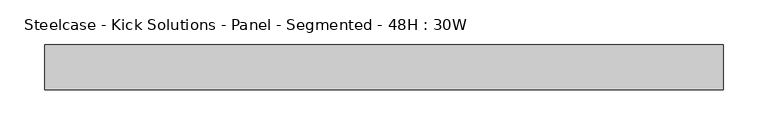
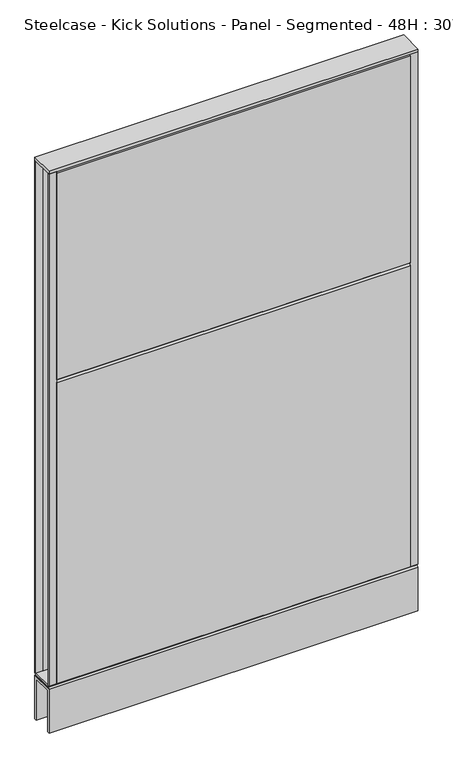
"""IFC4 building model written with IfcOpenShell, lengths in millimetres: furniture geometry, Steelcase - Kick Solutions - Panel - Segmented - 48H : 30W."""

from ifc_helpers import new_model, si_unit, frame, origin, place, context, project, spatial, polyline, outline, extrude, source, transform, mapped, element, save


def steelcase_kick_solutions_panel_segmented_48h_30w_b9597c33(model_context):
    return source(origin(), model_context, "Body", "SweptSolid", [
        extrude(outline(polyline([(1.5e-06, 101.600003), (-3.175, 101.600003), (-3.175, 1219.2), (1.5e-06, 1216.1188448), (1.5e-06, 101.600003)])), frame((15.8749996, 0.0, 0.0), z_axis=(1.0, 0.0, 0.0), x_axis=(0.0, 1.0, 0.0)), (0.0, 0.0, 1.0), 730.2500008),
        extrude(outline(polyline([(-50.8000015, 765.0811552), (-50.8000015, 1216.1188448), (-47.625, 1219.2), (-47.625, 762.0), (-50.8000015, 765.0811552)])), frame((15.8749996, 0.0, 0.0), z_axis=(1.0, 0.0, 0.0), x_axis=(0.0, 1.0, 0.0)), (0.0, 0.0, 1.0), 730.2500008),
        extrude(outline(polyline([(-50.8000015, 101.600003), (-50.8000015, 758.9188448), (-47.625, 762.0), (-47.625, 101.600003), (-50.8000015, 101.600003)])), frame((15.8749996, 0.0, 0.0), z_axis=(1.0, 0.0, 0.0), x_axis=(0.0, 1.0, 0.0)), (0.0, 0.0, 1.0), 730.2500008),
        extrude(outline(polyline([(762.0, -3.1750015), (746.1250004, -3.1750015), (746.1250004, 0.0), (762.0, 0.0), (762.0, -3.1750015)])), frame((0.0, 0.0, 101.7169049), z_axis=(0.0, 0.0, 1.0), x_axis=(1.0, 0.0, 0.0)), (0.0, 0.0, 1.0), 1117.599997),
        extrude(outline(polyline([(15.8749996, -50.8000015), (0.0, -50.8000015), (0.0, -47.625), (15.8749996, -47.625), (15.8749996, -50.8000015)])), frame((0.0, 0.0, 101.7169049), z_axis=(0.0, 0.0, 1.0), x_axis=(1.0, 0.0, 0.0)), (0.0, 0.0, 1.0), 1117.599997),
        extrude(outline(polyline([(-50.7995075, 101.7169049), (-0.000494, 101.7169049), (-3.0583512, 98.5421458), (-47.7416503, 98.5421458), (-50.7995075, 101.7169049)])), frame((0.0, 0.0, 0.0), z_axis=(1.0, 0.0, 0.0), x_axis=(0.0, 1.0, 0.0)), (0.0, 0.0, 1.0), 762.0),
        extrude(outline(polyline([(762.0, 0.0), (762.0, -50.8000015), (0.0, -50.8000015), (0.0, 0.0), (762.0, 0.0)])), frame((0.0, 0.0, 1219.3169018), z_axis=(0.0, 0.0, 1.0), x_axis=(1.0, 0.0, 0.0)), (0.0, 0.0, 1.0), 6.35),
        extrude(outline(polyline([(15.8749996, -3.1750015), (0.0, -3.1750015), (0.0, 0.0), (15.8749996, 0.0), (15.8749996, -3.1750015)])), frame((0.0, 0.0, 101.7169049), z_axis=(0.0, 0.0, 1.0), x_axis=(1.0, 0.0, 0.0)), (0.0, 0.0, 1.0), 1117.599997),
        extrude(outline(polyline([(762.0, -50.8000015), (746.1250004, -50.8000015), (746.1250004, -47.625), (762.0, -47.625), (762.0, -50.8000015)])), frame((0.0, 0.0, 101.7169049), z_axis=(0.0, 0.0, 1.0), x_axis=(1.0, 0.0, 0.0)), (0.0, 0.0, 1.0), 1117.599997),
        extrude(outline(polyline([(-50.8000015, 95.3668927), (-47.6247484, 98.5421458), (-3.1752531, 98.5421458), (0.0, 95.3668927), (-50.8000015, 95.3668927)])), frame((0.0, 0.0, 0.0), z_axis=(1.0, 0.0, 0.0), x_axis=(0.0, 1.0, 0.0)), (0.0, 0.0, 1.0), 762.0),
        extrude(outline(polyline([(0.0, 0.0), (-5.08, 0.0), (-5.08, 90.2869018), (-45.7200015, 90.2869018), (-45.7200015, 0.0), (-50.8000015, 0.0), (-50.8000015, 95.3669018), (0.0, 95.3669018), (0.0, 0.0)])), frame((0.0, 0.0, 0.0), z_axis=(1.0, 0.0, 0.0), x_axis=(0.0, 1.0, 0.0)), (0.0, 0.0, 1.0), 762.0),
    ])


if __name__ == "__main__":
    model = new_model("IFC4")
    model_context = context("Model", 3, world=origin())
    ifc_project = project(units=[si_unit("LENGTHUNIT", "METRE", prefix="MILLI")], contexts=[model_context])
    site = spatial("IfcSite", under=ifc_project)
    building = spatial("IfcBuilding", under=site)
    placement = place(None, origin())
    steelcase_kick_solutions_panel_segmented_48h_30w_shape = steelcase_kick_solutions_panel_segmented_48h_30w_b9597c33(model_context)
    element("IfcFurniture", 1, ObjectType="Steelcase - Kick Solutions - Panel - Segmented - 48H : 30W", at=placement, inside=building, context=model_context, shape_type="MappedRepresentation", body=[
        mapped(steelcase_kick_solutions_panel_segmented_48h_30w_shape, transform((0.0, 0.0, 0.0), x_axis=(1.0, 0.0, 0.0), y_axis=(0.0, 1.0, 0.0), z_axis=(0.0, 0.0, 1.0))),
    ])
    save(model, "model.ifc")
